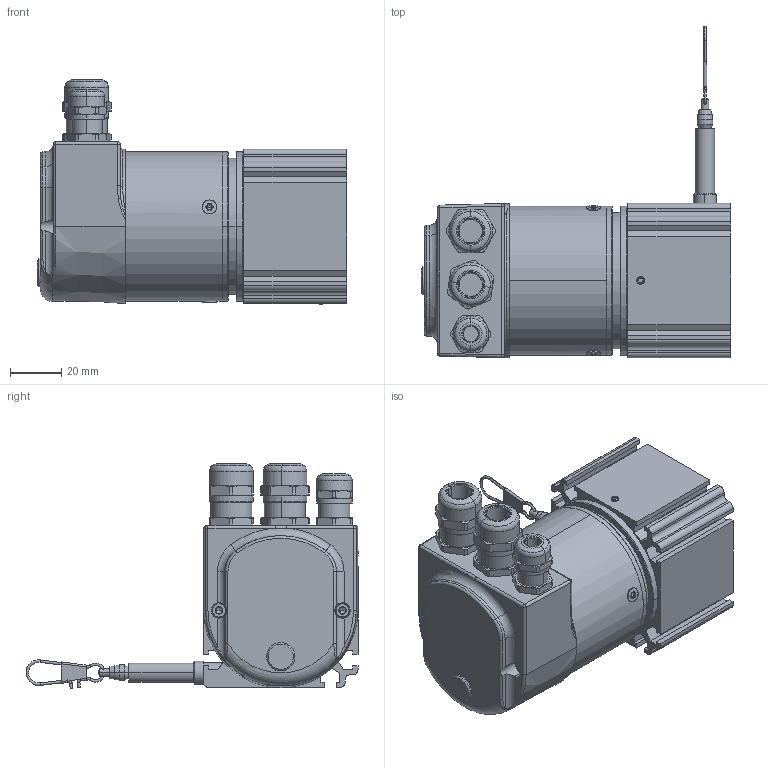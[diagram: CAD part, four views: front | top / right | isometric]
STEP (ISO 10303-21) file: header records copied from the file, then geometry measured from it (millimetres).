
FILE_DESCRIPTION((''),'2;1');
FILE_NAME('WDS-1500-P60-BH-CO_02_ASM','2024-05-21T14:29:49',('15000597'),(''),'CREO PARAMETRIC BY PTC INC, 2022164','CREO PARAMETRIC BY PTC INC, 2022164','');
FILE_SCHEMA(('AUTOMOTIVE_DESIGN { 1 0 10303 214 1 1 1 1 }'));
Length unit declared in the file: millimetre
Products named in the file (9): BAU_KLEMM_CO_EN580CIML-SC10IHH2; ADAPTER_36_AF2; TELESO_SENZORU_P60_150_AF0; VIKO_PR55_TL1MM; PRUCHODKA_LANKA_P60_AF4; SROUB_ISO4026_STAV_HEX_M3X3_AF2; SROUB_ISO4026_STAV_HEX_M3X3_AF3; KARABINKA25_AF1; WDS-1500-P60-BH-CO_02_ASM
Assembly tree (8 placements, depth 2):
  WDS-1500-P60-BH-CO_02_ASM
    BAU_KLEMM_CO_EN580CIML-SC10IHH2
    ADAPTER_36_AF2
    TELESO_SENZORU_P60_150_AF0
    VIKO_PR55_TL1MM
    PRUCHODKA_LANKA_P60_AF4
    SROUB_ISO4026_STAV_HEX_M3X3_AF2
    SROUB_ISO4026_STAV_HEX_M3X3_AF3
    KARABINKA25_AF1
Bounding box: 120.2 x 128.99 x 87.26 mm (x, y, z)
Volume: 40046 mm3; surface area: 64442.7 mm2
Topology: 7 solids, 14 shells, 770 faces, 1939 edges, 1199 vertices
Faces by surface type: cylinder 249, plane 218, cone 166, torus 118, bspline 13, sphere 6
Entity records: 37122 total; most frequent: CARTESIAN_POINT 8191, DIRECTION 4016, ORIENTED_EDGE 3788, PRESENTATION_STYLE_ASSIGNMENT 2471, STYLED_ITEM 2467, CURVE_STYLE 1911, EDGE_CURVE 1911, AXIS2_PLACEMENT_3D 1652
